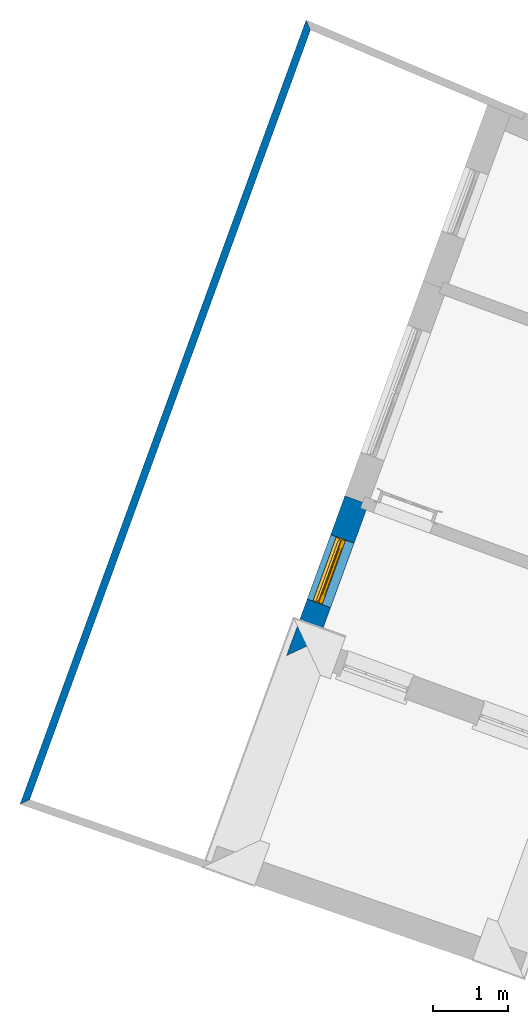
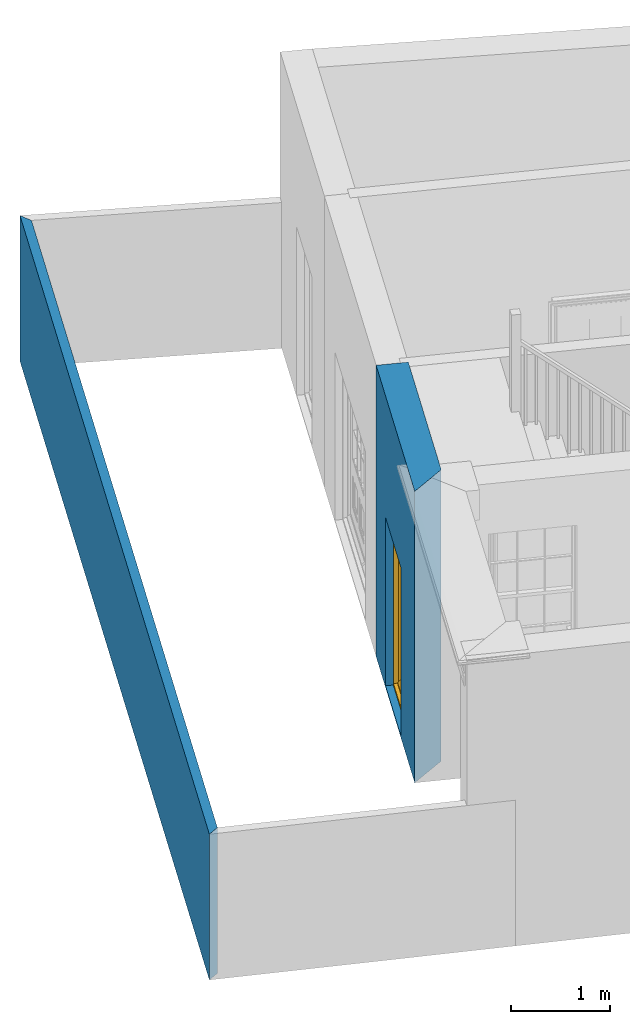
# One storey, part 2 of 6: 2 walls, 1 door, 1 opening.
"""IFC4 building model written with IfcOpenShell, lengths in metres."""

import ifcopenshell
import ifcopenshell.guid

model = None  # the IFC model being written
_history = None  # IfcOwnerHistory: only IFC2X3 demands one
_inside = {}  # id of a spatial element -> (the spatial element, [elements in it])
_under = {}  # id of a project, library or spatial element -> (it, [spatial elements below it])
_declared = {}  # id of a project -> (the project, [libraries it declares])
_typed = {}  # id of a type object -> (the type object, [elements of that type])
_made_of = {}  # id of a material, layer set ... -> (it, [elements and type objects made of it])


def new_model(schema):
    """Start an empty IFC model of exactly this schema.

    Asked for "IFC4X3", IfcOpenShell would pick the latest addendum, in which some entities
    have other attributes; the version numbers below select the first issue.
    IFC2X3 requires an IfcOwnerHistory on every rooted entity: one is made here for all.
    """
    global model, _history
    if schema == "IFC4X3":
        model = ifcopenshell.file(schema_version=(4, 3, 0, 0))
    else:
        model = ifcopenshell.file(schema=schema)
    _inside.clear()
    _under.clear()
    _declared.clear()
    _typed.clear()
    _made_of.clear()
    _history = None
    if model.schema == "IFC2X3":
        org = make("IfcOrganization", Name="unknown")
        user = make(
            "IfcPersonAndOrganization",
            ThePerson=make("IfcPerson", FamilyName="unknown"),
            TheOrganization=org,
        )
        app = make(
            "IfcApplication",
            ApplicationDeveloper=org,
            Version="unknown",
            ApplicationFullName="unknown",
            ApplicationIdentifier="unknown",
        )
        _history = make(
            "IfcOwnerHistory",
            OwningUser=user,
            OwningApplication=app,
            ChangeAction="ADDED",
            CreationDate=0,
        )
    return model


def make(cls, **values):
    """One entity of the class cls with the attributes given. An attribute that is None is left unset."""
    return model.create_entity(
        cls, **{name: value for name, value in values.items() if value is not None}
    )


def rooted(cls, **values):
    """An entity with a GlobalId (a new one), such as an element, a storey or a relation."""
    return make(cls, GlobalId=ifcopenshell.guid.new(), OwnerHistory=_history, **values)


def si_unit(unit_type, name, prefix=None):
    """IfcSIUnit, for example si_unit("LENGTHUNIT", "METRE", prefix="MILLI")."""
    return make("IfcSIUnit", UnitType=unit_type, Prefix=prefix, Name=name)


def assignment(units):
    """IfcUnitAssignment: the units of a project."""
    return None if units is None else make("IfcUnitAssignment", Units=units)


def point(xyz):
    """IfcCartesianPoint."""
    return None if xyz is None else make("IfcCartesianPoint", Coordinates=xyz)


def direction(xyz):
    """IfcDirection."""
    return None if xyz is None else make("IfcDirection", DirectionRatios=xyz)


def frame(location, z_axis=None, x_axis=None):
    """IfcAxis2Placement3D, a coordinate frame: its origin and axes. An axis left out is left unset."""
    return make(
        "IfcAxis2Placement3D",
        Location=point(location),
        Axis=direction(z_axis),
        RefDirection=direction(x_axis),
    )


def origin():
    """The frame at (0, 0, 0) with its axes left unset."""
    return frame((0.0, 0.0, 0.0))


def origin_with_axes():
    """The frame at (0, 0, 0) with the z axis (0, 0, 1) and the x axis (1, 0, 0) written out."""
    return frame((0.0, 0.0, 0.0), z_axis=(0.0, 0.0, 1.0), x_axis=(1.0, 0.0, 0.0))


def place(relative_to, where):
    """IfcLocalPlacement: puts the frame where relative to a parent placement (None: the world)."""
    return make(
        "IfcLocalPlacement", PlacementRelTo=relative_to, RelativePlacement=where
    )


def context(
    kind, dimensions, precision=None, world=None, true_north=None, identifier=None
):
    """IfcGeometricRepresentationContext, for example the 3D "Model" context."""
    return make(
        "IfcGeometricRepresentationContext",
        ContextIdentifier=identifier,
        ContextType=kind,
        CoordinateSpaceDimension=dimensions,
        Precision=precision,
        WorldCoordinateSystem=world,
        TrueNorth=true_north,
    )


def subcontext(parent, identifier, kind, view, scale=None):
    """IfcGeometricRepresentationSubContext, for example "Body" below "Model"."""
    return make(
        "IfcGeometricRepresentationSubContext",
        ContextIdentifier=identifier,
        ContextType=kind,
        ParentContext=parent,
        TargetScale=scale,
        TargetView=view,
    )


def project(units=None, contexts=None):
    """IfcProject with its units and contexts."""
    return rooted(
        "IfcProject",
        Name="project",
        RepresentationContexts=contexts,
        UnitsInContext=assignment(units),
    )


def spatial(cls, under=None, at=None, **own):
    """A site, building, storey or space (cls), placed at a placement, below another one or the project."""
    s = rooted(cls, ObjectPlacement=at, **own)
    if under is not None:
        _under.setdefault(under.id(), (under, []))[1].append(s)
    return s


def polyline(points):
    """IfcPolyline through the points."""
    return make("IfcPolyline", Points=[point(p) for p in points])


def outline(outer, holes=None, kind="AREA"):
    """IfcArbitraryClosedProfileDef: a profile drawn as a closed curve; with holes, ...WithVoids."""
    if holes is None:
        return make("IfcArbitraryClosedProfileDef", ProfileType=kind, OuterCurve=outer)
    return make(
        "IfcArbitraryProfileDefWithVoids",
        ProfileType=kind,
        OuterCurve=outer,
        InnerCurves=holes,
    )


def extrude(swept, where, along, depth):
    """IfcExtrudedAreaSolid: the profile swept, set in the frame where, extruded along a direction by depth."""
    return make(
        "IfcExtrudedAreaSolid",
        SweptArea=swept,
        Position=where,
        ExtrudedDirection=direction(along),
        Depth=depth,
    )


def faces_of(points, faces, orient=None, outer=None):
    """IfcFace entities. A face is a list of loops; a loop is a list of indices into points, from 0.

    orient and outer hold one flag for each loop. By default every Orientation is true, the
    first loop of a face is its IfcFaceOuterBound and the others are IfcFaceBound.
    """
    made = []
    for i, loops in enumerate(faces):
        bounds = []
        for j, loop in enumerate(loops):
            is_outer = j == 0 if outer is None else outer[i][j]
            bounds.append(
                make(
                    "IfcFaceOuterBound" if is_outer else "IfcFaceBound",
                    Bound=make("IfcPolyLoop", Polygon=[points[k] for k in loop]),
                    Orientation=True if orient is None else orient[i][j],
                )
            )
        made.append(make("IfcFace", Bounds=bounds))
    return made


def faceted_brep(points, faces, orient=None, outer=None, voids=None):
    """IfcFacetedBrep: a solid bounded by flat faces; with voids (closed shells), ...WithVoids."""
    shared = [point(p) for p in points]
    hull = make("IfcClosedShell", CfsFaces=faces_of(shared, faces, orient, outer))
    if voids is None:
        return make("IfcFacetedBrep", Outer=hull)
    return make(
        "IfcFacetedBrepWithVoids",
        Outer=hull,
        Voids=[
            make(cls, CfsFaces=faces_of(shared, fs, o, b)) for cls, fs, o, b in voids
        ],
    )


def shape(context_of_items, identifier, shape_type, items):
    """IfcShapeRepresentation: the items that make up one representation, for example the "Body"."""
    return make(
        "IfcShapeRepresentation",
        ContextOfItems=context_of_items,
        RepresentationIdentifier=identifier,
        RepresentationType=shape_type,
        Items=items,
    )


def source(mapping_origin, context_of_items, identifier, shape_type, items):
    """IfcRepresentationMap: a shape defined once, which mapped items show again and again."""
    return make(
        "IfcRepresentationMap",
        MappingOrigin=mapping_origin,
        MappedRepresentation=shape(context_of_items, identifier, shape_type, items),
    )


def transform(
    local_origin,
    x_axis=None,
    y_axis=None,
    z_axis=None,
    scale=None,
    scale2=None,
    scale3=None,
    uniform=True,
):
    """IfcCartesianTransformationOperator3D, or its non-uniform kind. x_axis, y_axis, z_axis: its Axis1, 2, 3."""
    if uniform:
        return make(
            "IfcCartesianTransformationOperator3D",
            Axis1=direction(x_axis),
            Axis2=direction(y_axis),
            LocalOrigin=point(local_origin),
            Scale=scale,
            Axis3=direction(z_axis),
        )
    return make(
        "IfcCartesianTransformationOperator3DnonUniform",
        Axis1=direction(x_axis),
        Axis2=direction(y_axis),
        LocalOrigin=point(local_origin),
        Scale=scale,
        Axis3=direction(z_axis),
        Scale2=scale2,
        Scale3=scale3,
    )


def mapped(mapping_source, mapping_target):
    """IfcMappedItem: shows the shape of a source again, moved by a transform."""
    return make(
        "IfcMappedItem", MappingSource=mapping_source, MappingTarget=mapping_target
    )


def material(Name=None, Category=None):
    """IfcMaterial."""
    return make("IfcMaterial", Name=Name, Category=Category)


def layer(
    of_material, thickness, ventilated=None, Name=None, Category=None, Priority=None
):
    """IfcMaterialLayer: one layer of a wall or slab, of a material (None: an air gap)."""
    return make(
        "IfcMaterialLayer",
        Material=of_material,
        LayerThickness=thickness,
        IsVentilated=ventilated,
        Name=Name,
        Category=Category,
        Priority=Priority,
    )


def layer_set(layers, Name=None):
    """IfcMaterialLayerSet."""
    return make("IfcMaterialLayerSet", MaterialLayers=layers, LayerSetName=Name)


def layer_usage(for_layer_set, set_direction, sense, offset, extent=None):
    """IfcMaterialLayerSetUsage: how a layer set lies in its element."""
    return make(
        "IfcMaterialLayerSetUsage",
        ForLayerSet=for_layer_set,
        LayerSetDirection=set_direction,
        DirectionSense=sense,
        OffsetFromReferenceLine=offset,
        ReferenceExtent=extent,
    )


def made_of(thing, what):
    """Note that an element or type object is made of a material, layer set ...; save() writes the relation."""
    if what is not None:
        _made_of.setdefault(what.id(), (what, []))[1].append(thing)
    return thing


def type_object(cls, material=None, **own):
    """A type object (cls), such as IfcWallType, which elements share."""
    return made_of(rooted(cls, **own), material)


def type_shapes(of_type, sources):
    """Give a type object the sources (RepresentationMaps) that its elements show as mapped items."""
    of_type.RepresentationMaps = sources


def element(
    cls,
    number,
    at=None,
    inside=None,
    cuts=None,
    type_object=None,
    material=None,
    context=None,
    identifier="Body",
    shape_type=None,
    held_by="IfcProductDefinitionShape",
    body=None,
    shapes=None,
    **own,
):
    """One element of the class cls, such as IfcWall. Its Tag is "e" and its number.

    at: its placement. inside: the storey or other place that contains it. cuts: it is an
    opening in that element (IfcRelVoidsElement). A single representation is given by context,
    identifier, shape_type and body (its items); several are given by shapes. held_by: the class
    of the entity that holds the representations. save() writes the other relations.
    """
    e = rooted(cls, Tag="e%d" % number, ObjectPlacement=at, **own)
    if body is not None:
        shapes = [shape(context, identifier, shape_type, body)]
    if shapes is not None:
        e.Representation = make(held_by, Representations=shapes)
    if inside is not None:
        _inside.setdefault(inside.id(), (inside, []))[1].append(e)
    if cuts is not None:
        rooted(
            "IfcRelVoidsElement", RelatingBuildingElement=cuts, RelatedOpeningElement=e
        )
    if type_object is not None:
        _typed.setdefault(type_object.id(), (type_object, []))[1].append(e)
    return made_of(e, material)


def fill(opening, filler):
    """IfcRelFillsElement: the door or window that sits in an opening."""
    return rooted(
        "IfcRelFillsElement",
        RelatingOpeningElement=opening,
        RelatedBuildingElement=filler,
    )


def aggregate(whole, parts):
    """IfcRelAggregates: a whole, such as a stair, and the parts it consists of."""
    return rooted("IfcRelAggregates", RelatingObject=whole, RelatedObjects=parts)


def save(model, path):
    """Write the relations noted so far, then the file.

    IfcRelAggregates (storeys below a building ...), IfcRelContainedInSpatialStructure (elements
    in a storey), IfcRelDefinesByType, IfcRelAssociatesMaterial and IfcRelDeclares: one each for
    every whole, place, type object, material and project.
    """
    for whole, parts in _under.values():
        aggregate(whole, parts)
    for where, things in _inside.values():
        rooted(
            "IfcRelContainedInSpatialStructure",
            RelatedElements=things,
            RelatingStructure=where,
        )
    for kind, things in _typed.values():
        rooted("IfcRelDefinesByType", RelatedObjects=things, RelatingType=kind)
    for what, things in _made_of.values():
        rooted("IfcRelAssociatesMaterial", RelatedObjects=things, RelatingMaterial=what)
    for by, libraries in _declared.values():
        rooted("IfcRelDeclares", RelatingContext=by, RelatedDefinitions=libraries)
    model.write(path)


model = new_model("IFC4")

# Units and contexts
model_context = context("Model", 3, world=origin_with_axes())
body_context = subcontext(model_context, "Body", "Model", "MODEL_VIEW")
ifc_project = project(units=[si_unit("PLANEANGLEUNIT", "RADIAN"), si_unit("MASSUNIT", "GRAM", prefix="KILO"), si_unit("FORCEUNIT", "NEWTON", prefix="KILO"), si_unit("LENGTHUNIT", "METRE"), si_unit("AREAUNIT", "SQUARE_METRE"), si_unit("VOLUMEUNIT", "CUBIC_METRE")], contexts=[model_context, model_context])

# Sites, building, storey
site_1_placement = place(None, origin_with_axes())
site_1 = spatial("IfcSite", under=ifc_project, at=site_1_placement, Name="Tamar")
site_2_placement = place(site_1_placement, origin_with_axes())
site_2 = spatial("IfcSite", under=site_1, at=site_2_placement, Name="Site plot-14", CompositionType="ELEMENT")
building_placement = place(None, origin_with_axes())
building = spatial("IfcBuilding", under=site_2, at=building_placement, Name="Building plot-14", CompositionType="ELEMENT")
storey_placement = place(None, frame((0.0, 0.0, 26.8), z_axis=(0.0, 0.0, 1.0), x_axis=(1.0, 0.0, 0.0)))
storey = spatial("IfcBuildingStorey", under=building, at=storey_placement, Name="plot-14 0", CompositionType="ELEMENT", Elevation=26.8)

# Wall, opening, door
ifc_material_1 = material(Name="Masonry")
ifc_layer_1 = layer(ifc_material_1, 0.33, ventilated=False)
ifc_layer_set_1 = layer_set([ifc_layer_1], Name="exterior_0.08_0.25")
ifc_layer_usage_1 = layer_usage(ifc_layer_set_1, "AXIS2", "POSITIVE", -0.25)
wall_type_1 = type_object("IfcWallType", Name="exterior_0.08_0.25", PredefinedType="SOLIDWALL", material=ifc_layer_set_1)
wall_1_placement = place(storey_placement, frame((250.26141527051, 311.300987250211, 0.0), z_axis=(0.0, 0.0, 1.0), x_axis=(-0.342734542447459, -0.93943229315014, 0.0)))
wall_1 = element("IfcWall", 1, at=wall_1_placement, inside=storey, type_object=wall_type_1, material=ifc_layer_usage_1, Name="exterior", context=body_context, shape_type="SweptSolid", body=[
    extrude(outline(polyline([(1.45514303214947e-14, 0.0800000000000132), (-6.80413633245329e-14, -0.25), (2.25801897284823, -0.250000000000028), (1.92801897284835, 0.0799999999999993), (1.45514303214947e-14, 0.0800000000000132)])), origin_with_axes(), (0.0, 0.0, 1.0), 3.6),
])
opening_placement = place(wall_1_placement, frame((0.549009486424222, 0.0, 0.0199999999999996)))
opening = element("IfcOpeningElement", 2, at=opening_placement, cuts=wall_1, Name="My Opening", ObjectType="Opening", context=body_context, shape_type="SweptSolid", body=[
    extrude(outline(polyline([(0.0, -0.270000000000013), (0.90999999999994, -0.270000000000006), (0.909999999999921, 1.09999999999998), (-1.90958360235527e-14, 1.09999999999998), (0.0, -0.270000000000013)])), origin_with_axes(), (0.0, 0.0, 1.0), 2.08),
])
door_type = type_object("IfcDoorType", Name="door_panelled", OperationType="SINGLE_SWING_LEFT", PredefinedType="NOTDEFINED")
shared_shape = source(origin(), body_context, "Body", "Brep", [
    faceted_brep([(0.545, 0.195, 0.265), (0.745, 0.195, 0.265), (0.745, 0.2, 0.265), (0.545, 0.2, 0.265), (0.745, 0.2, 0.58), (0.545, 0.2, 0.58), (0.545, 0.195, 0.58), (0.515, 0.19, 0.235), (0.775, 0.19, 0.235), (0.745, 0.195, 0.58), (0.515, 0.19, 0.61), (0.515, 0.185, 0.235), (0.775, 0.185, 0.235), (0.775, 0.19, 0.61), (0.515, 0.185, 0.61), (0.785, 0.185, 0.225), (0.505, 0.185, 0.225), (0.775, 0.185, 0.61), (0.505, 0.185, 0.62), (0.785, 0.185, 0.62), (0.505, 0.18, 0.225), (0.785, 0.18, 0.225), (0.505, 0.18, 0.62), (0.785, 0.18, 0.62), (0.883, 0.18, 0.075), (0.898, 0.18, 0.075), (0.405, 0.18, 0.62), (0.405, 0.18, 0.225), (0.027, 0.18, 0.075), (0.785, 0.18, 0.82), (0.125, 0.18, 0.82), (0.405, 0.185, 0.62), (0.405, 0.185, 0.225), (0.898, 0.18, 2.068), (0.027, 0.17, 0.075), (0.883, 0.17, 0.075), (0.125, 0.18, 0.225), (0.012, 0.18, 0.075), (0.785, 0.19, 0.82), (0.125, 0.19, 0.82), (0.125, 0.18, 0.62), (0.125, 0.185, 0.62), (0.395, 0.185, 0.61), (0.395, 0.185, 0.235), (0.125, 0.185, 0.225), (0.785, 0.18, 1.895), (0.027, 0.14, 0.045), (0.883, 0.14, 0.045), (0.558333, 0.19, 0.83), (0.351667, 0.19, 0.83), (0.125, 0.18, 1.895), (0.125, 0.19, 1.895), (0.785, 0.19, 1.895), (0.012, 0.18, 2.068), (0.135, 0.185, 0.61), (0.395, 0.19, 0.61), (0.395, 0.19, 0.235), (0.135, 0.185, 0.235), (0.027, 0.14, 0.027), (0.883, 0.14, 0.027), (0.568333, 0.19, 0.83), (0.558333, 0.22, 0.83), (0.351667, 0.22, 0.83), (0.341667, 0.19, 0.83), (0.135, 0.19, 1.185), (0.135, 0.19, 1.53), (0.775, 0.19, 1.53), (0.775, 0.19, 1.185), (0.135, 0.19, 0.61), (0.365, 0.195, 0.58), (0.365, 0.195, 0.265), (0.135, 0.19, 0.235), (0.568333, 0.19, 1.175), (0.558333, 0.19, 1.175), (0.775, 0.19, 0.83), (0.558333, 0.22, 1.175), (0.785, 0.22, 0.82), (0.125, 0.22, 0.82), (0.351667, 0.22, 1.175), (0.351667, 0.19, 1.175), (0.341667, 0.19, 1.175), (0.135, 0.19, 0.83), (0.135, 0.19, 1.175), (0.135, 0.22, 1.185), (0.135, 0.22, 1.53), (0.135, 0.19, 1.54), (0.351667, 0.19, 1.885), (0.558333, 0.19, 1.885), (0.775, 0.22, 1.53), (0.775, 0.22, 1.185), (0.775, 0.19, 1.175), (0.775, 0.19, 1.54), (0.165, 0.195, 0.58), (0.365, 0.2, 0.58), (0.365, 0.2, 0.265), (0.165, 0.195, 0.265), (0.568333, 0.22, 0.83), (0.568333, 0.22, 1.175), (0.568333, 0.19, 1.185), (0.558333, 0.19, 1.185), (0.775, 0.22, 0.83), (0.785, 0.23, 0.82), (0.125, 0.23, 0.82), (0.341667, 0.22, 0.83), (0.341667, 0.22, 1.175), (0.351667, 0.19, 1.185), (0.341667, 0.19, 1.185), (0.135, 0.22, 0.83), (0.341667, 0.22, 1.185), (0.125, 0.22, 1.895), (0.341667, 0.22, 1.53), (0.341667, 0.19, 1.53), (0.135, 0.19, 1.885), (0.341667, 0.19, 1.54), (0.341667, 0.19, 1.885), (0.558333, 0.22, 1.885), (0.351667, 0.22, 1.885), (0.568333, 0.19, 1.885), (0.785, 0.22, 1.895), (0.568333, 0.22, 1.185), (0.568333, 0.19, 1.53), (0.568333, 0.22, 1.53), (0.568333, 0.19, 1.54), (0.775, 0.19, 1.885), (0.165, 0.2, 0.58), (0.165, 0.2, 0.265), (0.775, 0.22, 1.175), (0.558333, 0.19, 1.53), (0.351667, 0.22, 1.185), (0.558333, 0.22, 1.185), (0.505, 0.23, 0.62), (0.405, 0.23, 0.62), (0.125, 0.23, 1.895), (0.785, 0.23, 1.895), (0.351667, 0.19, 1.53), (0.135, 0.22, 1.175), (0.135, 0.22, 1.54), (0.341667, 0.22, 1.54), (0.135, 0.22, 1.885), (0.351667, 0.19, 1.54), (0.558333, 0.22, 1.54), (0.558333, 0.19, 1.54), (0.351667, 0.22, 1.54), (0.775, 0.22, 1.54), (0.568333, 0.22, 1.54), (0.775, 0.22, 1.885), (0.558333, 0.22, 1.53), (0.405, 0.23, 0.225), (0.505, 0.23, 0.225), (0.125, 0.23, 0.62), (0.785, 0.23, 0.62), (0.012, 0.23, 2.068), (0.898, 0.23, 2.068), (0.351667, 0.22, 1.53), (0.341667, 0.22, 1.885), (0.568333, 0.22, 1.885), (0.405, 0.225, 0.225), (0.405, 0.225, 0.62), (0.505, 0.225, 0.62), (0.505, 0.225, 0.225), (0.898, 0.23, 0.027), (0.012, 0.23, 0.027), (0.125, 0.225, 0.62), (0.785, 0.225, 0.62), (0.395, 0.225, 0.235), (0.395, 0.225, 0.61), (0.125, 0.23, 0.225), (0.125, 0.225, 0.225), (0.515, 0.225, 0.61), (0.515, 0.225, 0.235), (0.785, 0.23, 0.225), (0.785, 0.225, 0.225), (0.135, 0.225, 0.61), (0.775, 0.225, 0.61), (0.135, 0.225, 0.235), (0.395, 0.22, 0.235), (0.395, 0.22, 0.61), (0.515, 0.22, 0.61), (0.515, 0.22, 0.235), (0.775, 0.225, 0.235), (0.135, 0.22, 0.61), (0.775, 0.22, 0.61), (0.135, 0.22, 0.235), (0.365, 0.215, 0.265), (0.365, 0.215, 0.58), (0.545, 0.215, 0.58), (0.545, 0.215, 0.265), (0.775, 0.22, 0.235), (0.165, 0.215, 0.58), (0.745, 0.215, 0.58), (0.165, 0.215, 0.265), (0.365, 0.21, 0.58), (0.365, 0.21, 0.265), (0.545, 0.21, 0.58), (0.545, 0.21, 0.265), (0.745, 0.215, 0.265), (0.165, 0.21, 0.58), (0.745, 0.21, 0.58), (0.165, 0.21, 0.265), (0.745, 0.21, 0.265), (0.885, 0.178, 0.025), (0.025, 0.178, 0.025), (0.025, 0.15, 0.025), (0.885, 0.15, 0.025), (0.9, 0.23, 0.025), (0.01, 0.23, 0.025), (0.9, 0.178, 0.025), (0.91, 0.23, 0.0), (0.0, 0.23, 0.0), (0.01, 0.178, 0.025), (0.9, 0.178, 2.07), (0.9, 0.23, 2.07), (0.885, 0.178, 2.055), (0.91, 0.23, 2.08), (0.01, 0.23, 2.07), (0.0, 0.23, 2.08), (0.01, 0.178, 2.07), (0.025, 0.178, 2.055), (0.0, 0.1, 2.08), (0.91, 0.1, 2.08), (0.01, 0.1, 2.07), (0.9, 0.1, 2.07), (0.01, 0.15, 2.07), (0.9, 0.15, 2.07), (0.0, 0.1, 0.0), (0.91, 0.1, 0.0), (0.01, 0.1, 0.025), (0.9, 0.1, 0.025), (0.01, 0.15, 0.025), (0.025, 0.15, 2.055), (0.9, 0.15, 0.025), (0.885, 0.15, 2.055), (0.898, 0.18, 0.027), (0.012, 0.18, 0.027), (0.883, 0.18, 0.027), (0.027, 0.18, 0.027)], [[[0, 1, 2, 3]], [[2, 4, 5, 3]], [[0, 3, 5, 6]], [[1, 0, 7, 8]], [[9, 4, 2, 1]], [[9, 6, 5, 4]], [[0, 6, 10, 7]], [[8, 7, 11, 12]], [[8, 13, 9, 1]], [[13, 10, 6, 9]], [[7, 10, 14, 11]], [[15, 12, 11, 16]], [[12, 17, 13, 8]], [[17, 14, 10, 13]], [[18, 16, 11, 14]], [[15, 19, 17, 12]], [[15, 16, 20, 21]], [[14, 17, 19, 18]], [[16, 18, 22, 20]], [[21, 23, 19, 15]], [[24, 25, 21, 20]], [[23, 22, 18, 19]], [[20, 22, 26, 27]], [[23, 21, 25]], [[28, 24, 20, 27]], [[22, 23, 29]], [[29, 30, 26, 22]], [[27, 26, 31, 32]], [[23, 25, 33, 29]], [[34, 35, 24, 28]], [[28, 27, 36, 37]], [[38, 39, 30, 29]], [[26, 30, 40]], [[26, 40, 41, 31]], [[42, 43, 32, 31]], [[32, 44, 36, 27]], [[33, 45, 29]], [[46, 47, 35, 34]], [[36, 40, 37]], [[39, 38, 48, 49]], [[50, 30, 39, 51]], [[29, 45, 52, 38]], [[53, 37, 40, 30]], [[44, 41, 40, 36]], [[31, 41, 54, 42]], [[43, 42, 55, 56]], [[57, 44, 32, 43]], [[50, 45, 33, 53]], [[47, 46, 58, 59]], [[60, 48, 38]], [[49, 48, 61, 62]], [[49, 63, 39]], [[50, 53, 30]], [[51, 39, 64, 65]], [[45, 50, 51, 52]], [[66, 67, 38, 52]], [[57, 54, 41, 44]], [[42, 54, 68, 55]], [[56, 55, 69, 70]], [[56, 71, 57, 43]], [[60, 72, 73, 48]], [[60, 38, 74]], [[48, 73, 75, 61]], [[76, 77, 62, 61]], [[62, 78, 79, 49]], [[49, 79, 80, 63]], [[63, 81, 39]], [[82, 64, 39]], [[65, 64, 83, 84]], [[85, 51, 65]], [[52, 51, 86, 87]], [[88, 89, 67, 66]], [[90, 38, 67]], [[91, 66, 52]], [[71, 68, 54, 57]], [[55, 68, 92, 69]], [[69, 93, 94, 70]], [[70, 95, 71, 56]], [[96, 97, 72, 60]], [[73, 72, 98, 99]], [[74, 38, 90]], [[100, 96, 60, 74]], [[75, 73, 79, 78]], [[61, 75, 97, 96]], [[101, 102, 77, 76]], [[77, 103, 62]], [[96, 76, 61]], [[103, 104, 78, 62]], [[80, 79, 105, 106]], [[63, 80, 104, 103]], [[81, 63, 103, 107]], [[81, 82, 39]], [[106, 64, 82, 80]], [[106, 108, 83, 64]], [[84, 83, 77, 109]], [[110, 111, 65, 84]], [[112, 51, 85]], [[113, 85, 65, 111]], [[114, 86, 51]], [[115, 87, 86, 116]], [[117, 52, 87]], [[118, 76, 89, 88]], [[119, 98, 67, 89]], [[120, 121, 88, 66]], [[67, 98, 72, 90]], [[91, 122, 120, 66]], [[91, 52, 123]], [[95, 92, 68, 71]], [[69, 92, 124, 93]], [[94, 93, 124, 125]], [[94, 125, 95, 70]], [[72, 97, 126, 90]], [[127, 99, 98, 120]], [[99, 105, 79, 73]], [[74, 90, 126, 100]], [[96, 100, 76]], [[128, 129, 75, 78]], [[97, 75, 129, 119]], [[130, 131, 102, 101]], [[109, 77, 102, 132]], [[133, 101, 76, 118]], [[77, 107, 103]], [[78, 104, 108, 128]], [[111, 106, 105, 134]], [[104, 80, 82, 135]], [[107, 135, 82, 81]], [[110, 108, 106, 111]], [[104, 135, 83, 108]], [[83, 135, 77]], [[136, 84, 109]], [[110, 84, 136, 137]], [[114, 51, 112]], [[85, 136, 138, 112]], [[113, 137, 136, 85]], [[111, 134, 139, 113]], [[86, 114, 113, 139]], [[140, 141, 87, 115]], [[139, 142, 116, 86]], [[109, 118, 115, 116]], [[117, 123, 52]], [[117, 87, 141, 122]], [[126, 89, 76]], [[143, 118, 88]], [[120, 98, 119, 121]], [[119, 89, 126, 97]], [[144, 143, 88, 121]], [[144, 122, 91, 143]], [[127, 120, 122, 141]], [[143, 91, 123, 145]], [[124, 92, 95, 125]], [[146, 129, 99, 127]], [[99, 129, 128, 105]], [[100, 126, 76]], [[121, 119, 129, 146]], [[147, 131, 130, 148]], [[131, 149, 102]], [[130, 101, 150]], [[102, 151, 132]], [[118, 109, 132, 133]], [[101, 133, 152]], [[107, 77, 135]], [[153, 128, 108, 110]], [[134, 105, 128, 153]], [[109, 138, 136]], [[153, 110, 137, 142]], [[154, 114, 112, 138]], [[137, 113, 114, 154]], [[141, 139, 134, 127]], [[141, 140, 142, 139]], [[144, 140, 115, 155]], [[142, 137, 154, 116]], [[155, 115, 118]], [[116, 154, 109]], [[117, 155, 145, 123]], [[122, 144, 155, 117]], [[143, 145, 118]], [[121, 146, 140, 144]], [[146, 127, 134, 153]], [[156, 157, 131, 147]], [[148, 130, 158, 159]], [[148, 160, 161, 147]], [[157, 162, 149, 131]], [[161, 151, 102, 149]], [[101, 152, 160, 150]], [[163, 158, 130, 150]], [[151, 152, 133, 132]], [[154, 138, 109]], [[142, 140, 146, 153]], [[145, 155, 118]], [[157, 156, 164, 165]], [[147, 166, 167, 156]], [[168, 169, 159, 158]], [[170, 148, 159, 171]], [[148, 170, 160]], [[166, 147, 161]], [[172, 162, 157, 165]], [[166, 149, 162, 167]], [[166, 161, 149]], [[150, 160, 170]], [[163, 173, 168, 158]], [[171, 163, 150, 170]], [[174, 164, 156, 167]], [[175, 176, 165, 164]], [[169, 168, 177, 178]], [[171, 159, 169, 179]], [[167, 162, 172, 174]], [[176, 180, 172, 165]], [[179, 173, 163, 171]], [[181, 177, 168, 173]], [[164, 174, 182, 175]], [[183, 184, 176, 175]], [[178, 177, 185, 186]], [[179, 169, 178, 187]], [[174, 172, 180, 182]], [[184, 188, 180, 176]], [[187, 181, 173, 179]], [[189, 185, 177, 181]], [[175, 182, 190, 183]], [[191, 184, 183, 192]], [[185, 193, 194, 186]], [[187, 178, 186, 195]], [[182, 180, 188, 190]], [[191, 196, 188, 184]], [[195, 189, 181, 187]], [[197, 193, 185, 189]], [[183, 190, 198, 192]], [[198, 196, 191, 192]], [[194, 193, 197, 199]], [[195, 186, 194, 199]], [[188, 196, 198, 190]], [[197, 189, 195, 199]], [[200, 201, 202, 203]], [[201, 200, 204, 205]], [[206, 204, 200]], [[204, 207, 208, 205]], [[209, 201, 205]], [[210, 211, 204, 206]], [[206, 200, 212, 210]], [[211, 213, 207, 204]], [[214, 205, 208, 215]], [[216, 217, 201, 209]], [[205, 214, 216, 209]], [[216, 214, 211, 210]], [[210, 212, 217, 216]], [[214, 215, 213, 211]], [[218, 219, 213, 215]], [[219, 218, 220, 221]], [[221, 220, 222, 223]], [[215, 208, 224, 218]], [[225, 224, 208, 207]], [[224, 226, 220, 218]], [[224, 225, 227, 226]], [[219, 225, 207, 213]], [[228, 222, 220, 226]], [[219, 221, 227, 225]], [[226, 227, 203, 202]], [[202, 229, 222, 228]], [[228, 226, 202]], [[227, 221, 223, 230]], [[230, 203, 227]], [[217, 229, 202, 201]], [[231, 223, 222, 229]], [[230, 223, 231, 203]], [[231, 229, 217, 212]], [[212, 200, 203, 231]], [[33, 152, 151, 53]], [[25, 160, 152, 33]], [[161, 37, 53, 151]], [[232, 160, 25]], [[161, 233, 37]], [[160, 232, 234]], [[24, 234, 232, 25]], [[233, 161, 235]], [[37, 233, 235, 28]], [[161, 160, 234, 235]], [[35, 47, 234, 24]], [[28, 235, 46, 34]], [[58, 235, 234, 59]], [[59, 234, 47]], [[58, 46, 235]]]),
])
type_shapes(door_type, [shared_shape])
door_placement = place(storey_placement, frame((249.819604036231, 310.877768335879, 0.0199999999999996), z_axis=(0.0, 0.0, 1.0), x_axis=(-0.311888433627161, -0.854883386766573, 0.0)))
door = element("IfcDoor", 3, at=door_placement, inside=storey, type_object=door_type, Name="circulation outside door", OverallHeight=2.08, OverallWidth=0.91, context=body_context, shape_type="MappedRepresentation", body=[
    mapped(shared_shape, transform((0.0, 0.0, 0.0), scale=1.0)),
])
fill(opening, door)

# Wall
ifc_material_2 = material(Name="Masonry")
ifc_layer_2 = layer(ifc_material_2, 0.1, ventilated=False)
ifc_layer_set_2 = layer_set([ifc_layer_2], Name="fence_-0.15_0.25")
ifc_layer_usage_2 = layer_usage(ifc_layer_set_2, "AXIS2", "POSITIVE", -0.25)
wall_type_2 = type_object("IfcWallType", Name="fence_-0.15_0.25", PredefinedType="SOLIDWALL", material=ifc_layer_set_2)
wall_2_placement = place(storey_placement, frame((249.656845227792, 317.369955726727, 0.0), z_axis=(0.0, 0.0, 1.0), x_axis=(-0.342734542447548, -0.939432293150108, 0.0)))
element("IfcWall", 4, at=wall_2_placement, inside=storey, type_object=wall_type_2, material=ifc_layer_usage_2, Name="fence", context=body_context, shape_type="SweptSolid", body=[
    extrude(outline(polyline([(-0.157664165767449, -0.150000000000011), (-0.262773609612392, -0.249999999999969), (10.8186861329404, -0.250000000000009), (10.7168806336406, -0.149999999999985), (-0.157664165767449, -0.150000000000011)])), origin_with_axes(), (0.0, 0.0, 1.0), 1.8),
])

save(model, "model.ifc")
